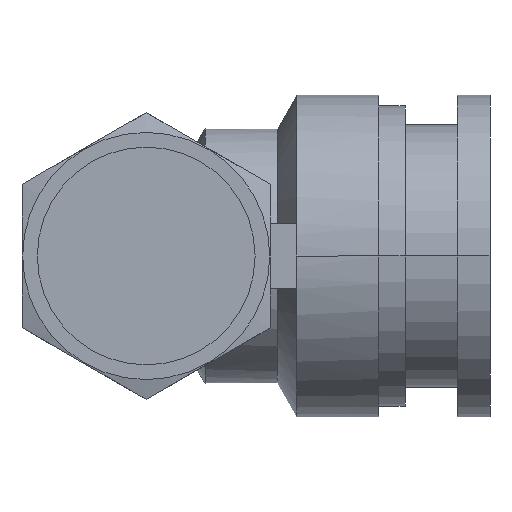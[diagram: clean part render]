
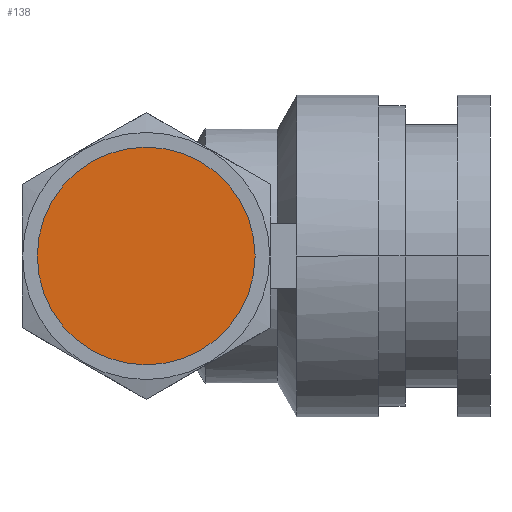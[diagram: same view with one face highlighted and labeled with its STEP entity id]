
A CAD part, front view. The second image highlights one B-rep face of the part: STEP entity #138.
In plain terms, the highlighted planar face has unit normal (0, -1, 0).
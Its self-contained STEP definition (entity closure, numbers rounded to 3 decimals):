
#138 = ADVANCED_FACE( '', ( #271 ), #272, .T. );
#271 = FACE_OUTER_BOUND( '', #404, .T. );
#272 = PLANE( '', #405 );
#404 = EDGE_LOOP( '', ( #913, #914 ) );
#405 = AXIS2_PLACEMENT_3D( '', #915, #916, #917 );
#913 = ORIENTED_EDGE( '', *, *, #921, .T. );
#914 = ORIENTED_EDGE( '', *, *, #1077, .T. );
#915 = CARTESIAN_POINT( '', ( -4.166, -5.8, 0. ) );
#916 = DIRECTION( '', ( 0., -1., 0. ) );
#917 = DIRECTION( '', ( -1., 0., 0. ) );
#921 = EDGE_CURVE( '', #1079, #1083, #1085, .T. );
#1077 = EDGE_CURVE( '', #1083, #1079, #1340, .T. );
#1079 = VERTEX_POINT( '', #1342 );
#1083 = VERTEX_POINT( '', #1347 );
#1085 = CIRCLE( '', #1350, 8.331 );
#1340 = CIRCLE( '', #1963, 8.331 );
#1342 = CARTESIAN_POINT( '', ( -8.331, -5.8, 0. ) );
#1347 = CARTESIAN_POINT( '', ( 8.331, -5.8, 0. ) );
#1350 = AXIS2_PLACEMENT_3D( '', #1969, #1970, #1971 );
#1963 = AXIS2_PLACEMENT_3D( '', #2207, #2208, #2209 );
#1969 = CARTESIAN_POINT( '', ( 0., -5.8, 0. ) );
#1970 = DIRECTION( '', ( 0., -1., 0. ) );
#1971 = DIRECTION( '', ( -1., 0., 0. ) );
#2207 = CARTESIAN_POINT( '', ( 0., -5.8, 0. ) );
#2208 = DIRECTION( '', ( 0., -1., 0. ) );
#2209 = DIRECTION( '', ( -1., 0., 0. ) );
